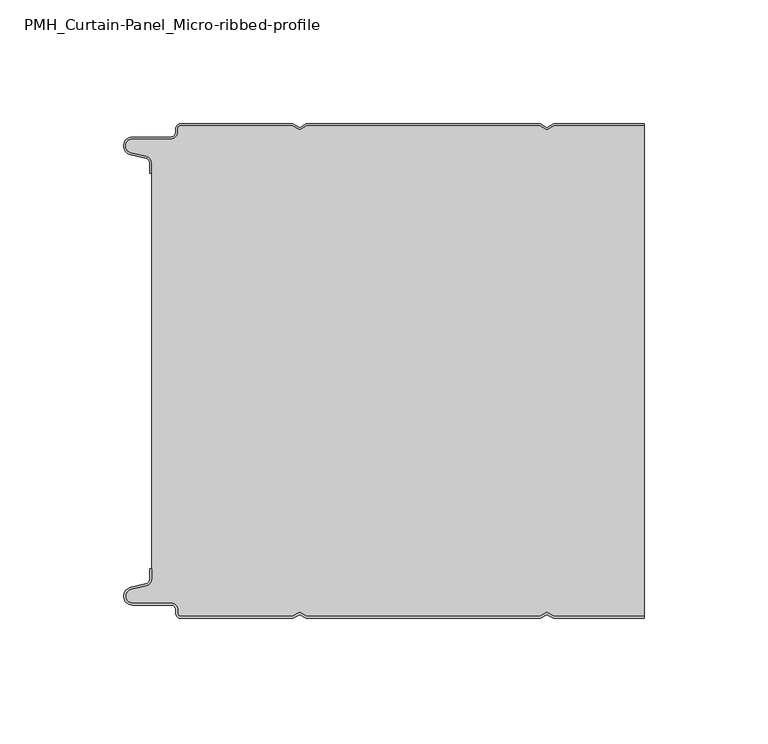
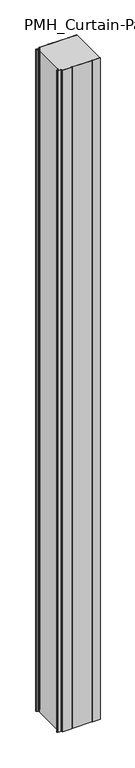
"""IFC4 building model written with IfcOpenShell, lengths in millimetres: plate geometry, PMH_Curtain-Panel_Micro-ribbed-profile : ACH_PMH_Acoustic-Sectioning-Panel_200M."""

from ifc_helpers import new_model, si_unit, point, frame_2d, origin, origin_with_axes, place, context, project, spatial, polyline, circle_curve, trimmed, segment, composite_curve, outline, extrude, source, transform, mapped, element, save


def pmh_curtain_panel_micro_ribbed_profile_669abe36(model_context):
    return source(origin(), model_context, "Body", "SweptSolid", [
        extrude(outline(composite_curve([segment(polyline([(-100.0, 15.878557), (-100.0, 20.0), (-99.2, 20.0), (-99.2, 15.878557)]), True, "CONTINUOUS"), segment(trimmed(circle_curve(frame_2d((-102.0, 15.878557)), 2.8), [point((-99.2, 15.878557))], [point((-101.370137, 13.1503208))], False, "CARTESIAN"), True, "CONTINUOUS"), segment(polyline([(-101.370137, 13.1503208), (-107.529863, 11.728236)]), True, "CONTINUOUS"), segment(trimmed(circle_curve(frame_2d((-106.9, 9.0)), 2.8), [point((-107.529863, 11.728236))], [point((-106.9, 6.2))], True, "CARTESIAN"), True, "CONTINUOUS"), segment(polyline([(-106.9, 6.2), (-91.4, 6.2)]), True, "CONTINUOUS"), segment(trimmed(circle_curve(frame_2d((-91.4, 3.4)), 2.8), [point((-91.4, 6.2))], [point((-88.6, 3.4))], False, "CARTESIAN"), True, "CONTINUOUS"), segment(polyline([(-88.6, 3.4), (-88.6, 2.0)]), True, "CONTINUOUS"), segment(trimmed(circle_curve(frame_2d((-87.4, 2.0)), 1.2), [point((-88.6, 2.0))], [point((-87.4, 0.8))], True, "CARTESIAN"), True, "CONTINUOUS"), segment(polyline([(-87.4, 0.8), (-42.3143588, 0.8), (-39.4, 2.482606), (-36.4856412, 0.8), (57.6856412, 0.8), (60.6, 2.482606), (63.5143588, 0.8), (100.0, 0.8), (100.0, 0.0), (63.2999995, 0.0), (60.6, 1.5588455), (57.9000005, 0.0), (-36.7000005, 0.0), (-39.4, 1.5588455), (-42.0999995, 0.0), (-87.4, 0.0)]), True, "CONTINUOUS"), segment(trimmed(circle_curve(frame_2d((-87.4, 2.0)), 2.0), [point((-87.4, 0.0))], [point((-89.4, 2.0))], False, "CARTESIAN"), True, "CONTINUOUS"), segment(polyline([(-89.4, 2.0), (-89.4, 3.4)]), True, "CONTINUOUS"), segment(trimmed(circle_curve(frame_2d((-91.4, 3.4)), 2.0), [point((-89.4, 3.4))], [point((-91.4, 5.4))], True, "CARTESIAN"), True, "CONTINUOUS"), segment(polyline([(-91.4, 5.4), (-106.9, 5.4)]), True, "CONTINUOUS"), segment(trimmed(circle_curve(frame_2d((-106.9, 9.0)), 3.6), [point((-106.9, 5.4))], [point((-107.7098239, 12.5077322))], False, "CARTESIAN"), True, "CONTINUOUS"), segment(polyline([(-107.7098239, 12.5077322), (-101.5500979, 13.929817)]), True, "CONTINUOUS"), segment(trimmed(circle_curve(frame_2d((-102.0, 15.878557)), 2.0), [point((-101.5500979, 13.929817))], [point((-100.0, 15.878557))], True, "CARTESIAN"), True, "CONTINUOUS")], self_intersect=False)), origin_with_axes(), (0.0, 0.0, 1.0), 3500.0),
        extrude(outline(composite_curve([segment(trimmed(circle_curve(frame_2d((-102.0, 184.1214426)), 2.8), [point((-99.2, 184.1214426))], [point((-101.370137, 186.8496788))], True, "CARTESIAN"), True, "CONTINUOUS"), segment(polyline([(-101.370137, 186.8496788), (-107.5298631, 188.2717638)]), True, "CONTINUOUS"), segment(trimmed(circle_curve(frame_2d((-106.9, 191.0)), 2.8), [point((-107.5298631, 188.2717638))], [point((-106.9, 193.8))], False, "CARTESIAN"), True, "CONTINUOUS"), segment(polyline([(-106.9, 193.8), (-91.4000001, 193.8)]), True, "CONTINUOUS"), segment(trimmed(circle_curve(frame_2d((-91.4000001, 196.6)), 2.8), [point((-91.4000001, 193.8))], [point((-88.6000001, 196.6))], True, "CARTESIAN"), True, "CONTINUOUS"), segment(polyline([(-88.6000001, 196.6), (-88.6000001, 198.0)]), True, "CONTINUOUS"), segment(trimmed(circle_curve(frame_2d((-87.4000001, 198.0)), 1.2), [point((-88.6000001, 198.0))], [point((-87.4000001, 199.2))], False, "CARTESIAN"), True, "CONTINUOUS"), segment(polyline([(-87.4000001, 199.2), (-42.3143589, 199.2), (-39.4000001, 197.517394), (-36.4856412, 199.2), (57.6856411, 199.2), (60.5999999, 197.517394), (63.5143588, 199.2), (100.0, 199.2), (100.0, 0.8), (63.5143588, 0.8), (60.5999999, 2.482606), (57.6856411, 0.8), (-36.4856412, 0.8), (-39.4000001, 2.482606), (-42.3143589, 0.8), (-87.4000001, 0.8)]), True, "CONTINUOUS"), segment(trimmed(circle_curve(frame_2d((-87.4000001, 2.0)), 1.2), [point((-87.4000001, 0.8))], [point((-88.6000001, 2.0))], False, "CARTESIAN"), True, "CONTINUOUS"), segment(polyline([(-88.6000001, 2.0), (-88.6000001, 3.4)]), True, "CONTINUOUS"), segment(trimmed(circle_curve(frame_2d((-91.4000001, 3.4)), 2.8), [point((-88.6000001, 3.4))], [point((-91.4000001, 6.2))], True, "CARTESIAN"), True, "CONTINUOUS"), segment(polyline([(-91.4000001, 6.2), (-106.9, 6.2)]), True, "CONTINUOUS"), segment(trimmed(circle_curve(frame_2d((-106.9, 9.0)), 2.8), [point((-106.9, 6.2))], [point((-107.5298631, 11.7282362))], False, "CARTESIAN"), True, "CONTINUOUS"), segment(polyline([(-107.5298631, 11.7282362), (-101.370137, 13.1503212)]), True, "CONTINUOUS"), segment(trimmed(circle_curve(frame_2d((-102.0, 15.8785573)), 2.8), [point((-101.370137, 13.1503212))], [point((-99.2, 15.8785573))], True, "CARTESIAN"), True, "CONTINUOUS"), segment(polyline([(-99.2, 15.8785573), (-99.2, 184.1214426)]), True, "CONTINUOUS")], self_intersect=False)), origin_with_axes(), (0.0, 0.0, 1.0), 3500.0),
        extrude(outline(composite_curve([segment(trimmed(circle_curve(frame_2d((-102.0, 184.121443)), 2.0), [point((-100.0, 184.121443))], [point((-101.5500978, 186.0701831))], True, "CARTESIAN"), True, "CONTINUOUS"), segment(polyline([(-101.5500978, 186.0701831), (-107.7098239, 187.492268)]), True, "CONTINUOUS"), segment(trimmed(circle_curve(frame_2d((-106.9, 191.0)), 3.6), [point((-107.7098239, 187.492268))], [point((-106.9, 194.6))], False, "CARTESIAN"), True, "CONTINUOUS"), segment(polyline([(-106.9, 194.6), (-91.4, 194.6)]), True, "CONTINUOUS"), segment(trimmed(circle_curve(frame_2d((-91.4, 196.6)), 2.0), [point((-91.4, 194.6))], [point((-89.4, 196.6))], True, "CARTESIAN"), True, "CONTINUOUS"), segment(polyline([(-89.4, 196.6), (-89.4, 198.0)]), True, "CONTINUOUS"), segment(trimmed(circle_curve(frame_2d((-87.4, 198.0)), 2.0), [point((-89.4, 198.0))], [point((-87.4, 200.0))], False, "CARTESIAN"), True, "CONTINUOUS"), segment(polyline([(-87.4, 200.0), (-42.0999995, 200.0), (-39.4, 198.4411545), (-36.7000005, 200.0), (57.9000005, 200.0), (60.6, 198.4411545), (63.2999995, 200.0), (100.0, 200.0), (100.0, 199.2), (63.5143588, 199.2), (60.6, 197.517394), (57.6856412, 199.2), (-36.4856412, 199.2), (-39.4, 197.517394), (-42.3143588, 199.2), (-87.4, 199.2)]), True, "CONTINUOUS"), segment(trimmed(circle_curve(frame_2d((-87.4, 198.0)), 1.2), [point((-87.4, 199.2))], [point((-88.6, 198.0))], True, "CARTESIAN"), True, "CONTINUOUS"), segment(polyline([(-88.6, 198.0), (-88.6, 196.6)]), True, "CONTINUOUS"), segment(trimmed(circle_curve(frame_2d((-91.4, 196.6)), 2.8), [point((-88.6, 196.6))], [point((-91.4, 193.8))], False, "CARTESIAN"), True, "CONTINUOUS"), segment(polyline([(-91.4, 193.8), (-106.9, 193.8)]), True, "CONTINUOUS"), segment(trimmed(circle_curve(frame_2d((-106.9, 191.0)), 2.8), [point((-106.9, 193.8))], [point((-107.529863, 188.2717638))], True, "CARTESIAN"), True, "CONTINUOUS"), segment(polyline([(-107.529863, 188.2717638), (-101.370137, 186.849679)]), True, "CONTINUOUS"), segment(trimmed(circle_curve(frame_2d((-102.0, 184.121443)), 2.8), [point((-101.370137, 186.849679))], [point((-99.2, 184.121443))], False, "CARTESIAN"), True, "CONTINUOUS"), segment(polyline([(-99.2, 184.121443), (-99.2, 180.0), (-100.0, 180.0), (-100.0, 184.121443)]), True, "CONTINUOUS")], self_intersect=False)), origin_with_axes(), (0.0, 0.0, 1.0), 3500.0),
    ])


if __name__ == "__main__":
    model = new_model("IFC4")
    model_context = context("Model", 3, world=origin())
    ifc_project = project(units=[si_unit("LENGTHUNIT", "METRE", prefix="MILLI")], contexts=[model_context])
    site = spatial("IfcSite", under=ifc_project)
    building = spatial("IfcBuilding", under=site)
    placement = place(None, origin())
    pmh_curtain_panel_micro_ribbed_profile_shape = pmh_curtain_panel_micro_ribbed_profile_669abe36(model_context)
    element("IfcPlate", 1, ObjectType="PMH_Curtain-Panel_Micro-ribbed-profile : ACH_PMH_Acoustic-Sectioning-Panel_200M", at=placement, inside=building, context=model_context, shape_type="MappedRepresentation", body=[
        mapped(pmh_curtain_panel_micro_ribbed_profile_shape, transform((0.0, 0.0, 0.0), x_axis=(1.0, 0.0, 0.0), y_axis=(0.0, 1.0, 0.0), z_axis=(0.0, 0.0, 1.0))),
    ])
    save(model, "model.ifc")
